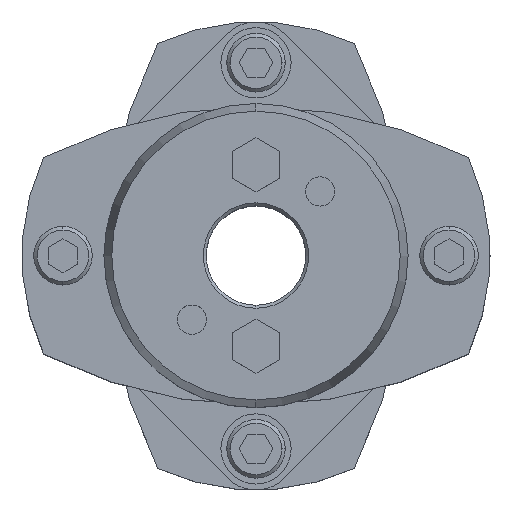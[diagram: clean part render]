
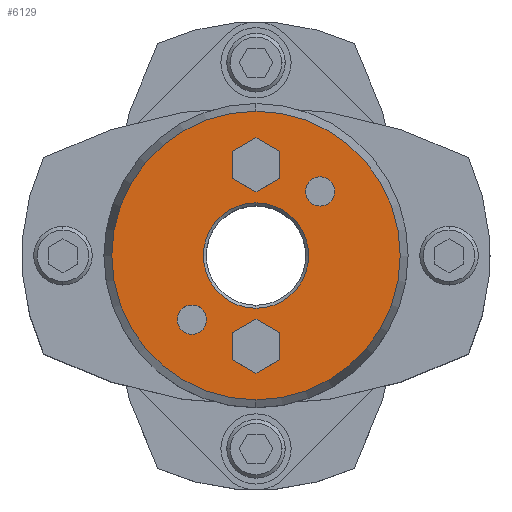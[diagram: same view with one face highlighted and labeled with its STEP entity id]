
A CAD part, top view. The second image highlights one B-rep face of the part: STEP entity #6129.
In plain terms, the highlighted planar face has unit normal (0, 0, 1).
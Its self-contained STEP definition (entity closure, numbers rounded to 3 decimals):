
#1677=CARTESIAN_POINT('',(0.,9.,45.25));
#1678=VERTEX_POINT('',#1677);
#1694=CARTESIAN_POINT('',(0.,-9.,45.25));
#1695=VERTEX_POINT('',#1694);
#1702=CARTESIAN_POINT('',(0.,0.,45.25));
#1703=DIRECTION('',(0.0,0.0,1.0));
#1704=DIRECTION('',(0.0,1.0,0.0));
#1705=AXIS2_PLACEMENT_3D('',#1702,#1703,#1704);
#1706=CIRCLE('',#1705,9.0);
#1707=EDGE_CURVE('',#1695,#1678,#1706,.T.);
#1865=CARTESIAN_POINT('',(0.,-24.66,45.25));
#1866=VERTEX_POINT('',#1865);
#1873=CARTESIAN_POINT('',(0.,24.66,45.25));
#1874=VERTEX_POINT('',#1873);
#1875=CARTESIAN_POINT('',(0.,0.,45.25));
#1876=DIRECTION('',(0.0,0.0,-1.0));
#1877=DIRECTION('',(0.0,-1.0,0.0));
#1878=AXIS2_PLACEMENT_3D('',#1875,#1876,#1877);
#1879=CIRCLE('',#1878,24.66);
#1880=EDGE_CURVE('',#1866,#1874,#1879,.T.);
#1975=CARTESIAN_POINT('',(10.96,13.46,45.25));
#1976=VERTEX_POINT('',#1975);
#1992=CARTESIAN_POINT('',(10.96,8.46,45.25));
#1993=VERTEX_POINT('',#1992);
#2000=CARTESIAN_POINT('',(10.96,10.96,45.25));
#2001=DIRECTION('',(0.0,0.0,-1.0));
#2002=DIRECTION('',(0.0,1.0,0.0));
#2003=AXIS2_PLACEMENT_3D('',#2000,#2001,#2002);
#2004=CIRCLE('',#2003,2.5);
#2005=EDGE_CURVE('',#1976,#1993,#2004,.T.);
#2017=CARTESIAN_POINT('',(-10.96,-8.46,45.25));
#2018=VERTEX_POINT('',#2017);
#2034=CARTESIAN_POINT('',(-10.96,-13.46,45.25));
#2035=VERTEX_POINT('',#2034);
#2042=CARTESIAN_POINT('',(-10.96,-10.96,45.25));
#2043=DIRECTION('',(0.0,0.0,-1.0));
#2044=DIRECTION('',(0.0,1.0,0.0));
#2045=AXIS2_PLACEMENT_3D('',#2042,#2043,#2044);
#2046=CIRCLE('',#2045,2.5);
#2047=EDGE_CURVE('',#2018,#2035,#2046,.T.);
#5373=CARTESIAN_POINT('',(0.,-10.881,45.25));
#5374=VERTEX_POINT('',#5373);
#5381=CARTESIAN_POINT('',(-4.,-13.191,45.25));
#5382=VERTEX_POINT('',#5381);
#5383=CARTESIAN_POINT('',(-4.,-13.191,45.25));
#5384=DIRECTION('',(0.866,0.5,0.0));
#5385=VECTOR('',#5384,4.619);
#5386=LINE('',#5383,#5385);
#5387=EDGE_CURVE('',#5382,#5374,#5386,.T.);
#5411=CARTESIAN_POINT('',(4.,-13.191,45.25));
#5412=VERTEX_POINT('',#5411);
#5419=CARTESIAN_POINT('',(0.,-10.881,45.25));
#5420=DIRECTION('',(0.866,-0.5,0.0));
#5421=VECTOR('',#5420,4.619);
#5422=LINE('',#5419,#5421);
#5423=EDGE_CURVE('',#5374,#5412,#5422,.T.);
#5442=CARTESIAN_POINT('',(4.,-17.809,45.25));
#5443=VERTEX_POINT('',#5442);
#5450=CARTESIAN_POINT('',(4.,-13.191,45.25));
#5451=DIRECTION('',(0.0,-1.0,0.0));
#5452=VECTOR('',#5451,4.619);
#5453=LINE('',#5450,#5452);
#5454=EDGE_CURVE('',#5412,#5443,#5453,.T.);
#5473=CARTESIAN_POINT('',(0.,-20.119,45.25));
#5474=VERTEX_POINT('',#5473);
#5481=CARTESIAN_POINT('',(4.,-17.809,45.25));
#5482=DIRECTION('',(-0.866,-0.5,0.0));
#5483=VECTOR('',#5482,4.619);
#5484=LINE('',#5481,#5483);
#5485=EDGE_CURVE('',#5443,#5474,#5484,.T.);
#5504=CARTESIAN_POINT('',(-4.,-17.809,45.25));
#5505=VERTEX_POINT('',#5504);
#5512=CARTESIAN_POINT('',(0.,-20.119,45.25));
#5513=DIRECTION('',(-0.866,0.5,0.0));
#5514=VECTOR('',#5513,4.619);
#5515=LINE('',#5512,#5514);
#5516=EDGE_CURVE('',#5474,#5505,#5515,.T.);
#5534=CARTESIAN_POINT('',(-4.,-17.809,45.25));
#5535=DIRECTION('',(0.0,1.0,0.0));
#5536=VECTOR('',#5535,4.619);
#5537=LINE('',#5534,#5536);
#5538=EDGE_CURVE('',#5505,#5382,#5537,.T.);
#5573=CARTESIAN_POINT('',(0.,20.119,45.25));
#5574=VERTEX_POINT('',#5573);
#5581=CARTESIAN_POINT('',(-4.,17.809,45.25));
#5582=VERTEX_POINT('',#5581);
#5583=CARTESIAN_POINT('',(-4.,17.809,45.25));
#5584=DIRECTION('',(0.866,0.5,0.0));
#5585=VECTOR('',#5584,4.619);
#5586=LINE('',#5583,#5585);
#5587=EDGE_CURVE('',#5582,#5574,#5586,.T.);
#5611=CARTESIAN_POINT('',(4.,17.809,45.25));
#5612=VERTEX_POINT('',#5611);
#5619=CARTESIAN_POINT('',(0.,20.119,45.25));
#5620=DIRECTION('',(0.866,-0.5,0.0));
#5621=VECTOR('',#5620,4.619);
#5622=LINE('',#5619,#5621);
#5623=EDGE_CURVE('',#5574,#5612,#5622,.T.);
#5642=CARTESIAN_POINT('',(4.,13.191,45.25));
#5643=VERTEX_POINT('',#5642);
#5650=CARTESIAN_POINT('',(4.,17.809,45.25));
#5651=DIRECTION('',(0.0,-1.0,0.0));
#5652=VECTOR('',#5651,4.619);
#5653=LINE('',#5650,#5652);
#5654=EDGE_CURVE('',#5612,#5643,#5653,.T.);
#5673=CARTESIAN_POINT('',(0.,10.881,45.25));
#5674=VERTEX_POINT('',#5673);
#5681=CARTESIAN_POINT('',(4.,13.191,45.25));
#5682=DIRECTION('',(-0.866,-0.5,0.0));
#5683=VECTOR('',#5682,4.619);
#5684=LINE('',#5681,#5683);
#5685=EDGE_CURVE('',#5643,#5674,#5684,.T.);
#5704=CARTESIAN_POINT('',(-4.,13.191,45.25));
#5705=VERTEX_POINT('',#5704);
#5712=CARTESIAN_POINT('',(0.,10.881,45.25));
#5713=DIRECTION('',(-0.866,0.5,0.0));
#5714=VECTOR('',#5713,4.619);
#5715=LINE('',#5712,#5714);
#5716=EDGE_CURVE('',#5674,#5705,#5715,.T.);
#5734=CARTESIAN_POINT('',(-4.,13.191,45.25));
#5735=DIRECTION('',(0.0,1.0,0.0));
#5736=VECTOR('',#5735,4.619);
#5737=LINE('',#5734,#5736);
#5738=EDGE_CURVE('',#5705,#5582,#5737,.T.);
#5764=CARTESIAN_POINT('',(-10.96,-10.96,45.25));
#5765=DIRECTION('',(0.0,0.0,-1.0));
#5766=DIRECTION('',(0.0,1.0,0.0));
#5767=AXIS2_PLACEMENT_3D('',#5764,#5765,#5766);
#5768=CIRCLE('',#5767,2.5);
#5769=EDGE_CURVE('',#2035,#2018,#5768,.T.);
#5798=CARTESIAN_POINT('',(10.96,10.96,45.25));
#5799=DIRECTION('',(0.0,0.0,-1.0));
#5800=DIRECTION('',(0.0,1.0,0.0));
#5801=AXIS2_PLACEMENT_3D('',#5798,#5799,#5800);
#5802=CIRCLE('',#5801,2.5);
#5803=EDGE_CURVE('',#1993,#1976,#5802,.T.);
#6076=CARTESIAN_POINT('',(0.,0.,45.25));
#6077=DIRECTION('',(0.0,0.0,-1.0));
#6078=DIRECTION('',(0.0,-1.0,0.0));
#6079=AXIS2_PLACEMENT_3D('',#6076,#6077,#6078);
#6080=CIRCLE('',#6079,24.66);
#6081=EDGE_CURVE('',#1874,#1866,#6080,.T.);
#6086=CARTESIAN_POINT('',(0.,2.364,45.25));
#6087=DIRECTION('',(0.0,0.0,1.0));
#6088=DIRECTION('',(0.0,1.0,0.0));
#6089=AXIS2_PLACEMENT_3D('',#6086,#6087,#6088);
#6090=PLANE('',#6089);
#6091=ORIENTED_EDGE('',*,*,#6081,.F.);
#6092=ORIENTED_EDGE('',*,*,#1880,.F.);
#6093=EDGE_LOOP('',(#6091,#6092));
#6094=FACE_OUTER_BOUND('',#6093,.T.);
#6095=ORIENTED_EDGE('',*,*,#5387,.T.);
#6096=ORIENTED_EDGE('',*,*,#5423,.T.);
#6097=ORIENTED_EDGE('',*,*,#5454,.T.);
#6098=ORIENTED_EDGE('',*,*,#5485,.T.);
#6099=ORIENTED_EDGE('',*,*,#5516,.T.);
#6100=ORIENTED_EDGE('',*,*,#5538,.T.);
#6101=EDGE_LOOP('',(#6095,#6096,#6097,#6098,#6099,#6100));
#6102=FACE_BOUND('',#6101,.T.);
#6103=ORIENTED_EDGE('',*,*,#5587,.T.);
#6104=ORIENTED_EDGE('',*,*,#5623,.T.);
#6105=ORIENTED_EDGE('',*,*,#5654,.T.);
#6106=ORIENTED_EDGE('',*,*,#5685,.T.);
#6107=ORIENTED_EDGE('',*,*,#5716,.T.);
#6108=ORIENTED_EDGE('',*,*,#5738,.T.);
#6109=EDGE_LOOP('',(#6103,#6104,#6105,#6106,#6107,#6108));
#6110=FACE_BOUND('',#6109,.T.);
#6111=ORIENTED_EDGE('',*,*,#2047,.T.);
#6112=ORIENTED_EDGE('',*,*,#5769,.T.);
#6113=EDGE_LOOP('',(#6111,#6112));
#6114=FACE_BOUND('',#6113,.T.);
#6115=ORIENTED_EDGE('',*,*,#2005,.T.);
#6116=ORIENTED_EDGE('',*,*,#5803,.T.);
#6117=EDGE_LOOP('',(#6115,#6116));
#6118=FACE_BOUND('',#6117,.T.);
#6119=ORIENTED_EDGE('',*,*,#1707,.F.);
#6120=CARTESIAN_POINT('',(0.,0.,45.25));
#6121=DIRECTION('',(0.0,0.0,1.0));
#6122=DIRECTION('',(0.0,1.0,0.0));
#6123=AXIS2_PLACEMENT_3D('',#6120,#6121,#6122);
#6124=CIRCLE('',#6123,9.0);
#6125=EDGE_CURVE('',#1678,#1695,#6124,.T.);
#6126=ORIENTED_EDGE('',*,*,#6125,.F.);
#6127=EDGE_LOOP('',(#6119,#6126));
#6128=FACE_BOUND('',#6127,.T.);
#6129=ADVANCED_FACE('',(#6094,#6102,#6110,#6114,#6118,#6128),#6090,.T.);
